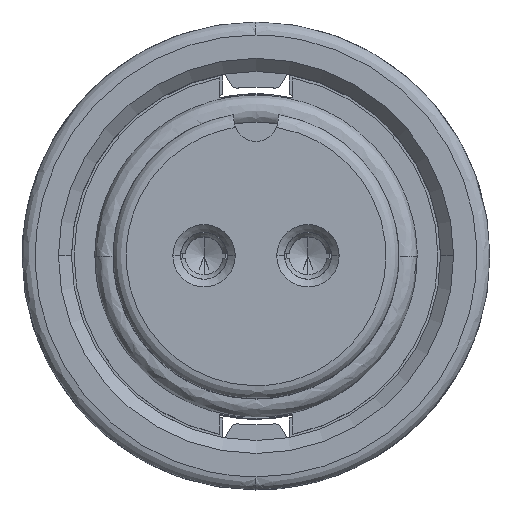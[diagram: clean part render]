
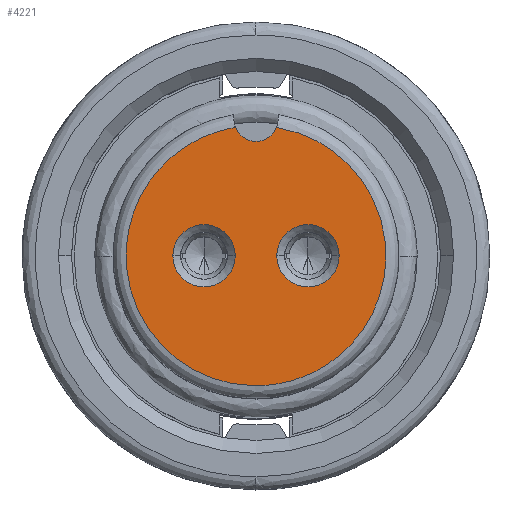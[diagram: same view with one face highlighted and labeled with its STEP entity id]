
A CAD part, top view. The second image highlights one B-rep face of the part: STEP entity #4221.
In plain terms, the highlighted planar face has unit normal (0, 0, 1).
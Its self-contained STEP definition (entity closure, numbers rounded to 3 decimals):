
#144 = VERTEX_POINT ( 'NONE', #13769 ) ;
#463 = CIRCLE ( 'NONE', #5081, 1.2 ) ;
#873 = FACE_BOUND ( 'NONE', #16369, .T. ) ;
#992 = DIRECTION ( 'NONE',  ( 0., 0., -1. ) ) ;
#1001 = DIRECTION ( 'NONE',  ( 0., 0., -1. ) ) ;
#1058 = CARTESIAN_POINT ( 'NONE',  ( -9.194, 3.592, 0. ) ) ;
#1106 = CARTESIAN_POINT ( 'NONE',  ( 2., 0., 0. ) ) ;
#1181 = AXIS2_PLACEMENT_3D ( 'NONE', #1426, #8293, #5387 ) ;
#1224 = VERTEX_POINT ( 'NONE', #3035 ) ;
#1234 = CARTESIAN_POINT ( 'NONE',  ( 8.638, -5.106, 0. ) ) ;
#1419 = EDGE_CURVE ( 'NONE', #13392, #144, #2773, .T. ) ;
#1426 = CARTESIAN_POINT ( 'NONE',  ( -2., 0., 0. ) ) ;
#1478 = EDGE_LOOP ( 'NONE', ( #15931, #16905, #16637 ) ) ;
#2260 = CARTESIAN_POINT ( 'NONE',  ( -2., 0., 0. ) ) ;
#2311 = DIRECTION ( 'NONE',  ( 0., 0., 1. ) ) ;
#2773 = CIRCLE ( 'NONE', #17503, 0.85 ) ;
#3035 = CARTESIAN_POINT ( 'NONE',  ( -0.061, -5., 0. ) ) ;
#3506 = ORIENTED_EDGE ( 'NONE', *, *, #8169, .T. ) ;
#3825 = ORIENTED_EDGE ( 'NONE', *, *, #14585, .T. ) ;
#4221 = ADVANCED_FACE ( 'NONE', ( #12895, #873, #6286 ), #17246, .T. ) ;
#4226 = CIRCLE ( 'NONE', #6539, 1.2 ) ;
#5081 = AXIS2_PLACEMENT_3D ( 'NONE', #1106, #16379, #9595 ) ;
#5384 = AXIS2_PLACEMENT_3D ( 'NONE', #10459, #2311, #14345 ) ;
#5387 = DIRECTION ( 'NONE',  ( 1., 0., 0. ) ) ;
#5760 = AXIS2_PLACEMENT_3D ( 'NONE', #9339, #9883, #15567 ) ;
#5794 = CARTESIAN_POINT ( 'NONE',  ( -0.8, 0., 0. ) ) ;
#6286 = FACE_OUTER_BOUND ( 'NONE', #1478, .T. ) ;
#6405 = ORIENTED_EDGE ( 'NONE', *, *, #17106, .T. ) ;
#6539 = AXIS2_PLACEMENT_3D ( 'NONE', #2260, #992, #17459 ) ;
#6559 = CARTESIAN_POINT ( 'NONE',  ( -0.79, 4.937, 0. ) ) ;
#6729 = EDGE_CURVE ( 'NONE', #14889, #12984, #463, .T. ) ;
#6861 = VERTEX_POINT ( 'NONE', #17165 ) ;
#7686 = CARTESIAN_POINT ( 'NONE',  ( -0.061, -5., 0. ) ) ;
#8106 = CARTESIAN_POINT ( 'NONE',  ( 9.38, 3.562, 0. ) ) ;
#8169 = EDGE_CURVE ( 'NONE', #14655, #6861, #4226, .T. ) ;
#8282 = CARTESIAN_POINT ( 'NONE',  ( 3.2, 0., 0. ) ) ;
#8293 = DIRECTION ( 'NONE',  ( 0., 0., -1. ) ) ;
#9339 = CARTESIAN_POINT ( 'NONE',  ( 2., 0., 0. ) ) ;
#9595 = DIRECTION ( 'NONE',  ( 1., 0., 0. ) ) ;
#9883 = DIRECTION ( 'NONE',  ( 0., 0., -1. ) ) ;
#10173 = EDGE_LOOP ( 'NONE', ( #6405, #3506 ) ) ;
#10459 = CARTESIAN_POINT ( 'NONE',  ( 0.002, -0.031, 0. ) ) ;
#10603 = ORIENTED_EDGE ( 'NONE', *, *, #6729, .T. ) ;
#11035 =( BOUNDED_CURVE ( )  B_SPLINE_CURVE ( 3, ( #14790, #13436, #1058, #6559 ),
 .UNSPECIFIED., .F., .F. ) 
 B_SPLINE_CURVE_WITH_KNOTS ( ( 4, 4 ),
 ( 0., 1. ),
 .UNSPECIFIED. ) 
 CURVE ( )  GEOMETRIC_REPRESENTATION_ITEM ( )  RATIONAL_B_SPLINE_CURVE ( ( 1., 0.39, 0.39, 1. ) ) 
 REPRESENTATION_ITEM ( '' )  );
#11705 = EDGE_CURVE ( 'NONE', #1224, #144, #11035, .T. ) ;
#12717 = EDGE_CURVE ( 'NONE', #13392, #1224, #13289, .T. ) ;
#12895 = FACE_BOUND ( 'NONE', #10173, .T. ) ;
#12984 = VERTEX_POINT ( 'NONE', #8282 ) ;
#13025 = CARTESIAN_POINT ( 'NONE',  ( 0.79, 4.937, 0. ) ) ;
#13289 =( BOUNDED_CURVE ( )  B_SPLINE_CURVE ( 3, ( #13025, #8106, #1234, #7686 ),
 .UNSPECIFIED., .F., .F. ) 
 B_SPLINE_CURVE_WITH_KNOTS ( ( 4, 4 ),
 ( 0., 1. ),
 .UNSPECIFIED. ) 
 CURVE ( )  GEOMETRIC_REPRESENTATION_ITEM ( )  RATIONAL_B_SPLINE_CURVE ( ( 1., 0.382, 0.382, 1. ) ) 
 REPRESENTATION_ITEM ( '' )  );
#13384 = DIRECTION ( 'NONE',  ( 1., 0., 0. ) ) ;
#13392 = VERTEX_POINT ( 'NONE', #14931 ) ;
#13436 = CARTESIAN_POINT ( 'NONE',  ( -8.571, -4.896, 0. ) ) ;
#13769 = CARTESIAN_POINT ( 'NONE',  ( -0.79, 4.937, 0. ) ) ;
#14345 = DIRECTION ( 'NONE',  ( 1., 0., 0. ) ) ;
#14585 = EDGE_CURVE ( 'NONE', #12984, #14889, #15137, .T. ) ;
#14655 = VERTEX_POINT ( 'NONE', #5794 ) ;
#14790 = CARTESIAN_POINT ( 'NONE',  ( -0.061, -5., 0. ) ) ;
#14889 = VERTEX_POINT ( 'NONE', #15742 ) ;
#14931 = CARTESIAN_POINT ( 'NONE',  ( 0.79, 4.937, 0. ) ) ;
#15137 = CIRCLE ( 'NONE', #5760, 1.2 ) ;
#15567 = DIRECTION ( 'NONE',  ( 1., 0., 0. ) ) ;
#15742 = CARTESIAN_POINT ( 'NONE',  ( 0.8, 0., 0. ) ) ;
#15931 = ORIENTED_EDGE ( 'NONE', *, *, #12717, .F. ) ;
#16369 = EDGE_LOOP ( 'NONE', ( #10603, #3825 ) ) ;
#16379 = DIRECTION ( 'NONE',  ( 0., 0., -1. ) ) ;
#16637 = ORIENTED_EDGE ( 'NONE', *, *, #11705, .F. ) ;
#16777 = CIRCLE ( 'NONE', #1181, 1.2 ) ;
#16905 = ORIENTED_EDGE ( 'NONE', *, *, #1419, .T. ) ;
#17106 = EDGE_CURVE ( 'NONE', #6861, #14655, #16777, .T. ) ;
#17165 = CARTESIAN_POINT ( 'NONE',  ( -3.2, 0., 0. ) ) ;
#17246 = PLANE ( 'NONE',  #5384 ) ;
#17382 = CARTESIAN_POINT ( 'NONE',  ( 0., 5.25, 0. ) ) ;
#17459 = DIRECTION ( 'NONE',  ( 1., 0., 0. ) ) ;
#17503 = AXIS2_PLACEMENT_3D ( 'NONE', #17382, #1001, #13384 ) ;
